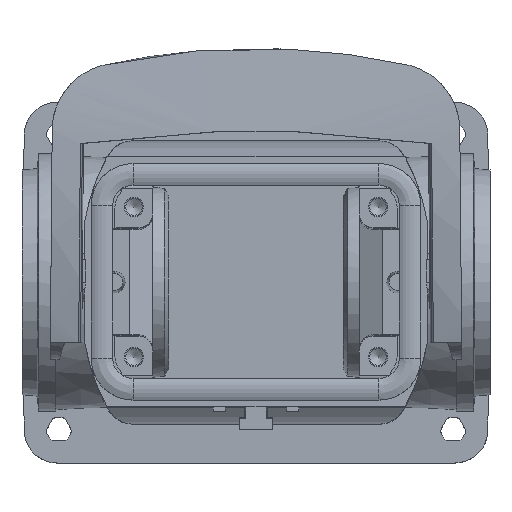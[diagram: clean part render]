
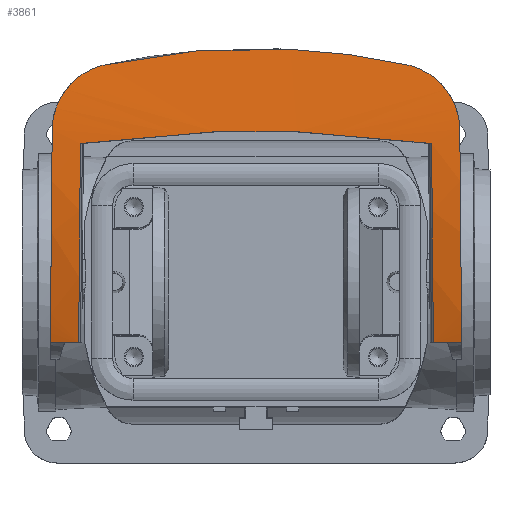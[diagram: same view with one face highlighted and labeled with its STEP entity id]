
A CAD part, top view. The second image highlights one B-rep face of the part: STEP entity #3861.
In plain terms, the highlighted cylindrical face has radius 120 mm (diameter 240 mm), a partial arc.
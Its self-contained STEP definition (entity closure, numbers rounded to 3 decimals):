
#3537=CYLINDRICAL_SURFACE('',#15665,120.);
#3708=ELLIPSE('',#15658,120.005,120.);
#3709=ELLIPSE('',#15659,120.005,120.);
#3710=ELLIPSE('',#15661,120.005,120.);
#3711=ELLIPSE('',#15662,1376.846,120.);
#3712=ELLIPSE('',#15663,1376.846,120.);
#3713=ELLIPSE('',#15664,120.005,120.);
#3861=ADVANCED_FACE('',(#4797),#3537,.T.);
#4797=FACE_OUTER_BOUND('',#5289,.T.);
#5289=EDGE_LOOP('',(#6067,#6068,#6069,#6070,#6071,#6072,#6073,#6074,#6075,
#6076,#6077,#6078,#6079,#6080));
#6067=ORIENTED_EDGE('',*,*,#10078,.T.);
#6068=ORIENTED_EDGE('',*,*,#10079,.F.);
#6069=ORIENTED_EDGE('',*,*,#10080,.T.);
#6070=ORIENTED_EDGE('',*,*,#10081,.T.);
#6071=ORIENTED_EDGE('',*,*,#10082,.F.);
#6072=ORIENTED_EDGE('',*,*,#10083,.F.);
#6073=ORIENTED_EDGE('',*,*,#10084,.F.);
#6074=ORIENTED_EDGE('',*,*,#10085,.F.);
#6075=ORIENTED_EDGE('',*,*,#10086,.T.);
#6076=ORIENTED_EDGE('',*,*,#10087,.F.);
#6077=ORIENTED_EDGE('',*,*,#10088,.F.);
#6078=ORIENTED_EDGE('',*,*,#10089,.F.);
#6079=ORIENTED_EDGE('',*,*,#10090,.T.);
#6080=ORIENTED_EDGE('',*,*,#10091,.T.);
#9046=VERTEX_POINT('',#20263);
#9047=VERTEX_POINT('',#20264);
#9048=VERTEX_POINT('',#20266);
#9049=VERTEX_POINT('',#20268);
#9050=VERTEX_POINT('',#20275);
#9051=VERTEX_POINT('',#20284);
#9052=VERTEX_POINT('',#20291);
#9053=VERTEX_POINT('',#20293);
#9054=VERTEX_POINT('',#20295);
#9055=VERTEX_POINT('',#20297);
#9056=VERTEX_POINT('',#20299);
#9057=VERTEX_POINT('',#20301);
#9058=VERTEX_POINT('',#20303);
#9059=VERTEX_POINT('',#20305);
#10078=EDGE_CURVE('',#9046,#9047,#12549,.T.);
#10079=EDGE_CURVE('',#9048,#9047,#11594,.T.);
#10080=EDGE_CURVE('',#9048,#9049,#3708,.T.);
#10081=EDGE_CURVE('',#9049,#9050,#11479,.T.);
#10082=EDGE_CURVE('',#9051,#9050,#11480,.T.);
#10083=EDGE_CURVE('',#9052,#9051,#11481,.T.);
#10084=EDGE_CURVE('',#9053,#9052,#3709,.T.);
#10085=EDGE_CURVE('',#9054,#9053,#11595,.T.);
#10086=EDGE_CURVE('',#9054,#9055,#12550,.T.);
#10087=EDGE_CURVE('',#9056,#9055,#3710,.T.);
#10088=EDGE_CURVE('',#9057,#9056,#3711,.T.);
#10089=EDGE_CURVE('',#9058,#9057,#12551,.T.);
#10090=EDGE_CURVE('',#9058,#9059,#3712,.T.);
#10091=EDGE_CURVE('',#9059,#9046,#3713,.T.);
#11479=B_SPLINE_CURVE_WITH_KNOTS('',3,(#20269,#20270,#20271,#20272,#20273,
#20274),.UNSPECIFIED.,.F.,.F.,(4,2,4),(0.,0.5,1.),.UNSPECIFIED.);
#11480=B_SPLINE_CURVE_WITH_KNOTS('',3,(#20276,#20277,#20278,#20279,#20280,
#20281,#20282,#20283),.UNSPECIFIED.,.F.,.F.,(4,2,2,4),(0.,0.5,0.75,1.),
 .UNSPECIFIED.);
#11481=B_SPLINE_CURVE_WITH_KNOTS('',3,(#20285,#20286,#20287,#20288,#20289,
#20290),.UNSPECIFIED.,.F.,.F.,(4,2,4),(0.,0.5,1.),.UNSPECIFIED.);
#11594=CIRCLE('',#15657,120.);
#11595=CIRCLE('',#15660,120.);
#12549=LINE('',#20262,#13722);
#12550=LINE('',#20296,#13723);
#12551=LINE('',#20302,#13724);
#13722=VECTOR('',#16933,1.);
#13723=VECTOR('',#16942,1.);
#13724=VECTOR('',#16947,1.);
#15657=AXIS2_PLACEMENT_3D('',#20265,#16934,#16935);
#15658=AXIS2_PLACEMENT_3D('',#20267,#16936,#16937);
#15659=AXIS2_PLACEMENT_3D('',#20292,#16938,#16939);
#15660=AXIS2_PLACEMENT_3D('',#20294,#16940,#16941);
#15661=AXIS2_PLACEMENT_3D('',#20298,#16943,#16944);
#15662=AXIS2_PLACEMENT_3D('',#20300,#16945,#16946);
#15663=AXIS2_PLACEMENT_3D('',#20304,#16948,#16949);
#15664=AXIS2_PLACEMENT_3D('',#20306,#16950,#16951);
#15665=AXIS2_PLACEMENT_3D('',#20307,#16952,#16953);
#16933=DIRECTION('',(1.,0.,0.));
#16934=DIRECTION('',(1.,0.,0.));
#16935=DIRECTION('',(0.,0.,1.));
#16936=DIRECTION('',(-1.,-0.009,0.));
#16937=DIRECTION('',(0.009,-1.,0.));
#16938=DIRECTION('',(-1.,0.009,0.));
#16939=DIRECTION('',(0.009,1.,0.));
#16940=DIRECTION('',(-1.,0.,0.));
#16941=DIRECTION('',(0.,0.,-1.));
#16942=DIRECTION('',(1.,0.,0.));
#16943=DIRECTION('',(1.,-0.009,0.));
#16944=DIRECTION('',(0.009,1.,0.));
#16945=DIRECTION('',(0.087,-0.996,0.));
#16946=DIRECTION('',(0.996,0.087,0.));
#16947=DIRECTION('',(-1.,0.,0.));
#16948=DIRECTION('',(0.087,0.996,0.));
#16949=DIRECTION('',(0.996,-0.087,0.));
#16950=DIRECTION('',(1.,0.009,0.));
#16951=DIRECTION('',(0.009,-1.,0.));
#16952=DIRECTION('',(1.,0.,0.));
#16953=DIRECTION('',(0.,0.,1.));
#20262=CARTESIAN_POINT('',(37.,-11.,25.743));
#20263=CARTESIAN_POINT('',(31.946,-11.,25.743));
#20264=CARTESIAN_POINT('',(37.,-11.,25.743));
#20265=CARTESIAN_POINT('',(37.,23.157,-89.293));
#20266=CARTESIAN_POINT('',(37.,-5.729,27.178));
#20267=CARTESIAN_POINT('',(36.748,23.157,-89.293));
#20268=CARTESIAN_POINT('',(36.711,27.42,30.631));
#20269=CARTESIAN_POINT('',(36.711,27.42,30.631));
#20270=CARTESIAN_POINT('',(36.687,30.129,30.535));
#20271=CARTESIAN_POINT('',(35.748,32.746,30.342));
#20272=CARTESIAN_POINT('',(32.357,36.95,29.93));
#20273=CARTESIAN_POINT('',(30.,38.422,29.733));
#20274=CARTESIAN_POINT('',(27.358,39.02,29.654));
#20275=CARTESIAN_POINT('',(27.358,39.02,29.654));
#20276=CARTESIAN_POINT('',(-27.358,39.02,29.654));
#20277=CARTESIAN_POINT('',(-18.383,41.05,29.383));
#20278=CARTESIAN_POINT('',(-9.183,42.001,29.218));
#20279=CARTESIAN_POINT('',(4.611,42.,29.218));
#20280=CARTESIAN_POINT('',(9.214,41.756,29.258));
#20281=CARTESIAN_POINT('',(18.342,40.773,29.408));
#20282=CARTESIAN_POINT('',(22.87,40.035,29.518));
#20283=CARTESIAN_POINT('',(27.358,39.02,29.654));
#20284=CARTESIAN_POINT('',(-27.358,39.02,29.654));
#20285=CARTESIAN_POINT('',(-36.711,27.42,30.631));
#20286=CARTESIAN_POINT('',(-36.687,30.129,30.535));
#20287=CARTESIAN_POINT('',(-35.748,32.744,30.342));
#20288=CARTESIAN_POINT('',(-32.359,36.949,29.93));
#20289=CARTESIAN_POINT('',(-30.,38.422,29.733));
#20290=CARTESIAN_POINT('',(-27.358,39.02,29.654));
#20291=CARTESIAN_POINT('',(-36.711,27.42,30.631));
#20292=CARTESIAN_POINT('',(-36.748,23.157,-89.293));
#20293=CARTESIAN_POINT('',(-37.,-5.729,27.178));
#20294=CARTESIAN_POINT('',(-37.,23.157,-89.293));
#20295=CARTESIAN_POINT('',(-37.,-11.,25.743));
#20296=CARTESIAN_POINT('',(-37.,-11.,25.743));
#20297=CARTESIAN_POINT('',(-31.946,-11.,25.743));
#20298=CARTESIAN_POINT('',(-31.648,23.157,-89.293));
#20299=CARTESIAN_POINT('',(-31.633,24.879,30.694));
#20300=CARTESIAN_POINT('',(-51.31,23.157,-89.293));
#20301=CARTESIAN_POINT('',(-7.39,27.,30.645));
#20302=CARTESIAN_POINT('',(-7.39,27.,30.645));
#20303=CARTESIAN_POINT('',(7.39,27.,30.645));
#20304=CARTESIAN_POINT('',(51.31,23.157,-89.293));
#20305=CARTESIAN_POINT('',(31.633,24.879,30.694));
#20306=CARTESIAN_POINT('',(31.648,23.157,-89.293));
#20307=CARTESIAN_POINT('',(-37.,23.157,-89.293));
